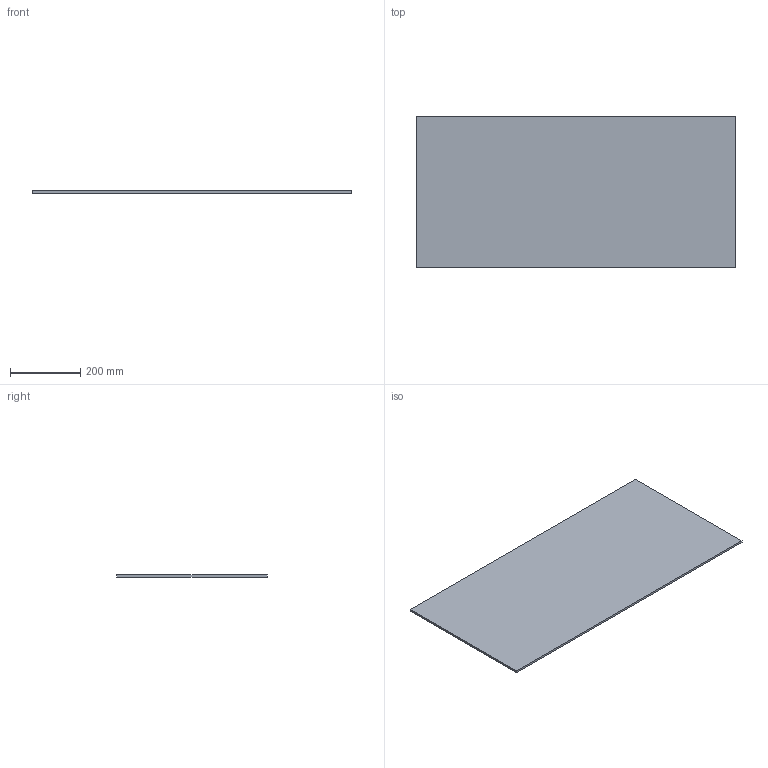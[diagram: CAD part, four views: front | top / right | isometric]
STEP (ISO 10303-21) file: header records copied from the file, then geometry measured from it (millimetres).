
FILE_DESCRIPTION (( 'STEP AP214' ), '1' );
FILE_NAME ('Lochblech_NL450_KAB1000_16.step', '2010-10-11T13:38:28', ( 'grass' ), ( '' ), 'SwSTEP 2.0', 'SolidWorks 2010', '' );
FILE_SCHEMA (( 'AUTOMOTIVE_DESIGN' ));
Length unit declared in the file: millimetre
Products named in the file (1): Lochblech_NL450_KAB1000_16
Bounding box: 908 x 429 x 6 mm (x, y, z)
Volume: 2337192 mm3; surface area: 795108 mm2
Topology: 1 solids, 1 shells, 6 faces, 12 edges, 8 vertices
Faces by surface type: plane 6
Entity records: 190 total; most frequent: CARTESIAN_POINT 27, DIRECTION 26, ORIENTED_EDGE 24, VECTOR 12, LINE 12, EDGE_CURVE 12, VERTEX_POINT 8, AXIS2_PLACEMENT_3D 7
